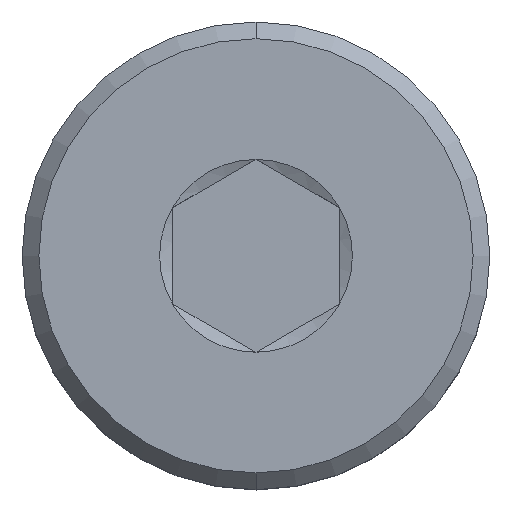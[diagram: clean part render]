
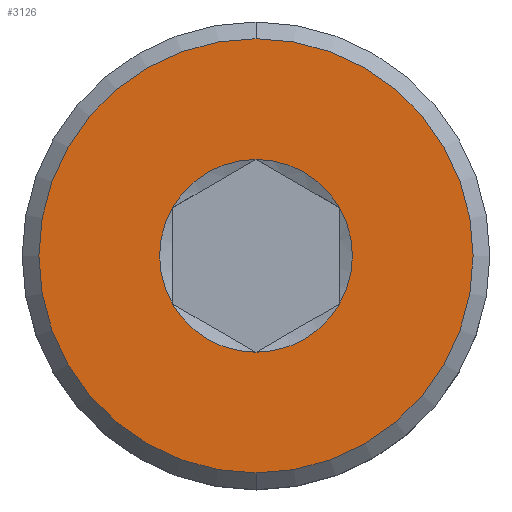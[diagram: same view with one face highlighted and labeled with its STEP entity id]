
A CAD part, top view. The second image highlights one B-rep face of the part: STEP entity #3126.
In plain terms, the highlighted planar face has unit normal (0, 0, 1).
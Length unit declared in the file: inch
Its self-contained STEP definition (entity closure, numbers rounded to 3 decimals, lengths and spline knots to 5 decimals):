
#38 = AXIS2_PLACEMENT_3D ( 'NONE', #4290, #7249, #6684 ) ;
#42 = EDGE_LOOP ( 'NONE', ( #3009, #1341, #6091, #3557, #2628, #3341 ) ) ;
#168 = VERTEX_POINT ( 'NONE', #3935 ) ;
#183 = DIRECTION ( 'NONE',  ( 0., -1., 0. ) ) ;
#332 = DIRECTION ( 'NONE',  ( 0., -1., 0. ) ) ;
#416 = DIRECTION ( 'NONE',  ( 0., 0., 1. ) ) ;
#653 = CIRCLE ( 'NONE', #3610, 0.12795 ) ;
#920 = CIRCLE ( 'NONE', #2738, 0.05683 ) ;
#1083 = DIRECTION ( 'NONE',  ( 0., 0., 1. ) ) ;
#1150 = CARTESIAN_POINT ( 'NONE',  ( 0., 0.12795, 0. ) ) ;
#1341 = ORIENTED_EDGE ( 'NONE', *, *, #3506, .F. ) ;
#1364 = ORIENTED_EDGE ( 'NONE', *, *, #3685, .F. ) ;
#1417 = AXIS2_PLACEMENT_3D ( 'NONE', #4931, #5475, #183 ) ;
#1562 = AXIS2_PLACEMENT_3D ( 'NONE', #2029, #416, #1631 ) ;
#1620 = ORIENTED_EDGE ( 'NONE', *, *, #6350, .F. ) ;
#1631 = DIRECTION ( 'NONE',  ( 0., -1., 0. ) ) ;
#1641 = CARTESIAN_POINT ( 'NONE',  ( 0., 0.05683, 0. ) ) ;
#1848 = FACE_OUTER_BOUND ( 'NONE', #3460, .T. ) ;
#1904 = CARTESIAN_POINT ( 'NONE',  ( 0., -0.05683, 0. ) ) ;
#2016 = EDGE_CURVE ( 'NONE', #3783, #168, #7342, .T. ) ;
#2029 = CARTESIAN_POINT ( 'NONE',  ( 0., 0.12795, 0. ) ) ;
#2052 = DIRECTION ( 'NONE',  ( 0., -1., 0. ) ) ;
#2084 = CARTESIAN_POINT ( 'NONE',  ( -0.04921, -0.02841, 0. ) ) ;
#2584 = DIRECTION ( 'NONE',  ( 0., 1., 0. ) ) ;
#2610 = VERTEX_POINT ( 'NONE', #1641 ) ;
#2628 = ORIENTED_EDGE ( 'NONE', *, *, #3930, .F. ) ;
#2641 = DIRECTION ( 'NONE',  ( 0., 0., -1. ) ) ;
#2674 = FACE_BOUND ( 'NONE', #42, .T. ) ;
#2738 = AXIS2_PLACEMENT_3D ( 'NONE', #4330, #3247, #332 ) ;
#2779 = CARTESIAN_POINT ( 'NONE',  ( 0., 0., 0. ) ) ;
#3009 = ORIENTED_EDGE ( 'NONE', *, *, #4706, .F. ) ;
#3071 = CARTESIAN_POINT ( 'NONE',  ( -0.04921, 0.02841, 0. ) ) ;
#3117 = CIRCLE ( 'NONE', #38, 0.05683 ) ;
#3126 = ADVANCED_FACE ( 'NONE', ( #2674, #1848 ), #6078, .T. ) ;
#3247 = DIRECTION ( 'NONE',  ( 0., 0., 1. ) ) ;
#3257 = DIRECTION ( 'NONE',  ( 0., 1., 0. ) ) ;
#3280 = DIRECTION ( 'NONE',  ( 0., 0., 1. ) ) ;
#3341 = ORIENTED_EDGE ( 'NONE', *, *, #2016, .F. ) ;
#3460 = EDGE_LOOP ( 'NONE', ( #1620, #1364 ) ) ;
#3506 = EDGE_CURVE ( 'NONE', #5398, #6190, #4032, .T. ) ;
#3557 = ORIENTED_EDGE ( 'NONE', *, *, #7354, .F. ) ;
#3585 = CARTESIAN_POINT ( 'NONE',  ( 0., -0.12795, 0. ) ) ;
#3610 = AXIS2_PLACEMENT_3D ( 'NONE', #6159, #2641, #3257 ) ;
#3668 = CIRCLE ( 'NONE', #1417, 0.05683 ) ;
#3685 = EDGE_CURVE ( 'NONE', #6862, #5680, #653, .T. ) ;
#3742 = CIRCLE ( 'NONE', #4283, 0.12795 ) ;
#3783 = VERTEX_POINT ( 'NONE', #4395 ) ;
#3930 = EDGE_CURVE ( 'NONE', #168, #2610, #7241, .T. ) ;
#3935 = CARTESIAN_POINT ( 'NONE',  ( 0.04921, 0.02841, 0. ) ) ;
#4032 = CIRCLE ( 'NONE', #7140, 0.05683 ) ;
#4283 = AXIS2_PLACEMENT_3D ( 'NONE', #4311, #6075, #2584 ) ;
#4290 = CARTESIAN_POINT ( 'NONE',  ( 0., 0., 0. ) ) ;
#4311 = CARTESIAN_POINT ( 'NONE',  ( 0., 0., 0. ) ) ;
#4330 = CARTESIAN_POINT ( 'NONE',  ( 0., 0., 0. ) ) ;
#4395 = CARTESIAN_POINT ( 'NONE',  ( 0.04921, -0.02841, 0. ) ) ;
#4706 = EDGE_CURVE ( 'NONE', #6190, #3783, #3668, .T. ) ;
#4931 = CARTESIAN_POINT ( 'NONE',  ( 0., 0., 0. ) ) ;
#4942 = CARTESIAN_POINT ( 'NONE',  ( 0., 0., 0. ) ) ;
#5004 = CARTESIAN_POINT ( 'NONE',  ( 0., 0., 0. ) ) ;
#5254 = EDGE_CURVE ( 'NONE', #7215, #5398, #3117, .T. ) ;
#5398 = VERTEX_POINT ( 'NONE', #2084 ) ;
#5475 = DIRECTION ( 'NONE',  ( 0., 0., 1. ) ) ;
#5513 = DIRECTION ( 'NONE',  ( 0., 0., 1. ) ) ;
#5680 = VERTEX_POINT ( 'NONE', #1150 ) ;
#5775 = AXIS2_PLACEMENT_3D ( 'NONE', #2779, #3280, #6758 ) ;
#6075 = DIRECTION ( 'NONE',  ( 0., 0., -1. ) ) ;
#6078 = PLANE ( 'NONE',  #1562 ) ;
#6091 = ORIENTED_EDGE ( 'NONE', *, *, #5254, .F. ) ;
#6159 = CARTESIAN_POINT ( 'NONE',  ( 0., 0., 0. ) ) ;
#6190 = VERTEX_POINT ( 'NONE', #1904 ) ;
#6350 = EDGE_CURVE ( 'NONE', #5680, #6862, #3742, .T. ) ;
#6684 = DIRECTION ( 'NONE',  ( 0., -1., 0. ) ) ;
#6741 = AXIS2_PLACEMENT_3D ( 'NONE', #4942, #5513, #2052 ) ;
#6758 = DIRECTION ( 'NONE',  ( 0., -1., 0. ) ) ;
#6862 = VERTEX_POINT ( 'NONE', #3585 ) ;
#6882 = DIRECTION ( 'NONE',  ( 0., -1., 0. ) ) ;
#7140 = AXIS2_PLACEMENT_3D ( 'NONE', #5004, #1083, #6882 ) ;
#7215 = VERTEX_POINT ( 'NONE', #3071 ) ;
#7241 = CIRCLE ( 'NONE', #6741, 0.05683 ) ;
#7249 = DIRECTION ( 'NONE',  ( 0., 0., 1. ) ) ;
#7342 = CIRCLE ( 'NONE', #5775, 0.05683 ) ;
#7354 = EDGE_CURVE ( 'NONE', #2610, #7215, #920, .T. ) ;
